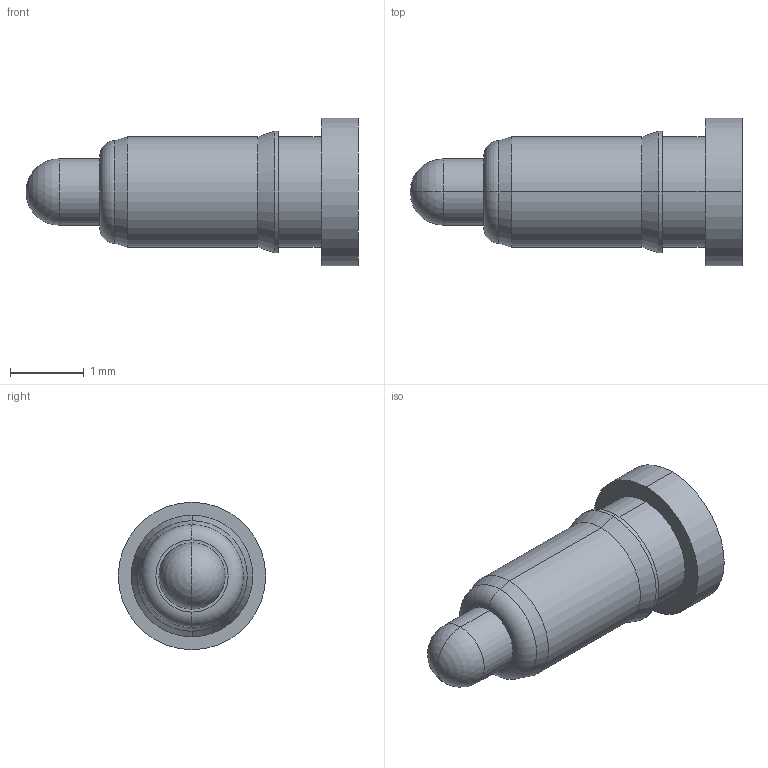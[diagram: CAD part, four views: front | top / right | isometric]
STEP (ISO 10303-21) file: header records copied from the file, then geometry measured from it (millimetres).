
FILE_DESCRIPTION((''),'2;1');
FILE_NAME('NC1918-01','2022-07-07T15:23:42',('Administrator'),(''),'CREO PARAMETRIC BY PTC INC, 2018400','CREO PARAMETRIC BY PTC INC, 2018400','');
FILE_SCHEMA(('CONFIG_CONTROL_DESIGN'));
Length unit declared in the file: millimetre
Products named in the file (1): NC1918-01
Bounding box: 4.5 x 2 x 2 mm (x, y, z)
Volume: 7.4 mm3; surface area: 25.6 mm2
Topology: 1 solids, 1 shells, 22 faces, 44 edges, 25 vertices
Faces by surface type: cylinder 10, plane 4, cone 4, torus 2, sphere 2
Entity records: 600 total; most frequent: DIRECTION 114, CARTESIAN_POINT 89, ORIENTED_EDGE 84, AXIS2_PLACEMENT_3D 50, EDGE_CURVE 42, CIRCLE 28, VERTEX_POINT 25, EDGE_LOOP 25
